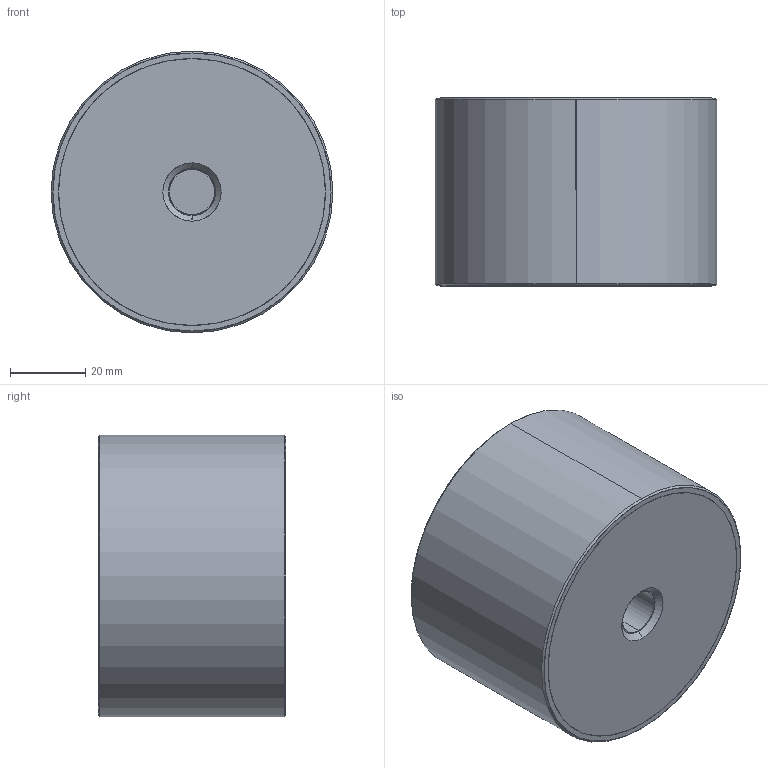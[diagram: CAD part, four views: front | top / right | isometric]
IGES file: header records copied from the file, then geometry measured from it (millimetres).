
Start section: SolidWorks IGES file using analytic representation for surfaces
Global section: file name: E:\WIXROYD 20180701\61080_v2\61080_v2_20180409_IGES\61080.W0752.igs; native system: SolidWorks 2017; preprocessor: SolidWorks 2017; author: liam_; date: 180716.214642; units: millimetre
Bounding box: 75 x 50 x 75 mm (x, y, z)
Surface area: 38008.6 mm2 (no closed solid volume)
Topology: 0 solids, 0 shells, 32 faces, 984 edges, 984 vertices
Faces by surface type: revolution 22, bspline 10
